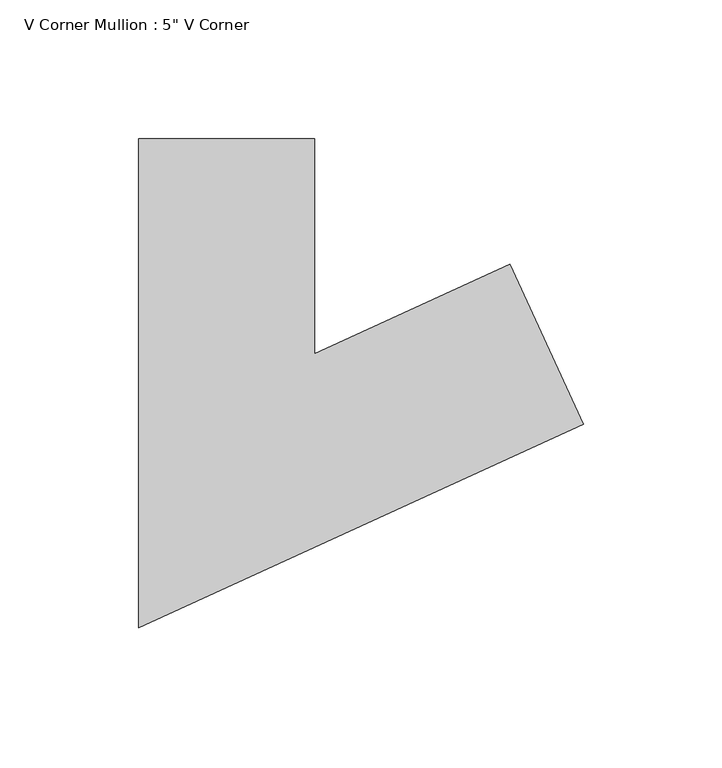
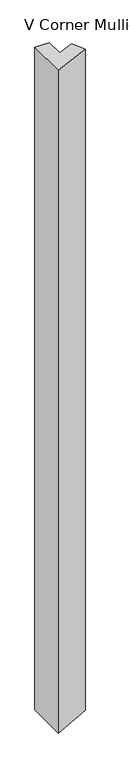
"""IFC4 building model written with IfcOpenShell, lengths in millimetres: member geometry."""

import ifcopenshell
import ifcopenshell.guid

model = None  # the IFC model being written
_history = None  # IfcOwnerHistory: only IFC2X3 demands one
_inside = {}  # id of a spatial element -> (the spatial element, [elements in it])
_under = {}  # id of a project, library or spatial element -> (it, [spatial elements below it])
_declared = {}  # id of a project -> (the project, [libraries it declares])
_typed = {}  # id of a type object -> (the type object, [elements of that type])
_made_of = {}  # id of a material, layer set ... -> (it, [elements and type objects made of it])


def new_model(schema):
    """Start an empty IFC model of exactly this schema.

    Asked for "IFC4X3", IfcOpenShell would pick the latest addendum, in which some entities
    have other attributes; the version numbers below select the first issue.
    IFC2X3 requires an IfcOwnerHistory on every rooted entity: one is made here for all.
    """
    global model, _history
    if schema == "IFC4X3":
        model = ifcopenshell.file(schema_version=(4, 3, 0, 0))
    else:
        model = ifcopenshell.file(schema=schema)
    _inside.clear()
    _under.clear()
    _declared.clear()
    _typed.clear()
    _made_of.clear()
    _history = None
    if model.schema == "IFC2X3":
        org = make("IfcOrganization", Name="unknown")
        user = make(
            "IfcPersonAndOrganization",
            ThePerson=make("IfcPerson", FamilyName="unknown"),
            TheOrganization=org,
        )
        app = make(
            "IfcApplication",
            ApplicationDeveloper=org,
            Version="unknown",
            ApplicationFullName="unknown",
            ApplicationIdentifier="unknown",
        )
        _history = make(
            "IfcOwnerHistory",
            OwningUser=user,
            OwningApplication=app,
            ChangeAction="ADDED",
            CreationDate=0,
        )
    return model


def make(cls, **values):
    """One entity of the class cls with the attributes given. An attribute that is None is left unset."""
    return model.create_entity(
        cls, **{name: value for name, value in values.items() if value is not None}
    )


def rooted(cls, **values):
    """An entity with a GlobalId (a new one), such as an element, a storey or a relation."""
    return make(cls, GlobalId=ifcopenshell.guid.new(), OwnerHistory=_history, **values)


def si_unit(unit_type, name, prefix=None):
    """IfcSIUnit, for example si_unit("LENGTHUNIT", "METRE", prefix="MILLI")."""
    return make("IfcSIUnit", UnitType=unit_type, Prefix=prefix, Name=name)


def assignment(units):
    """IfcUnitAssignment: the units of a project."""
    return None if units is None else make("IfcUnitAssignment", Units=units)


def point(xyz):
    """IfcCartesianPoint."""
    return None if xyz is None else make("IfcCartesianPoint", Coordinates=xyz)


def direction(xyz):
    """IfcDirection."""
    return None if xyz is None else make("IfcDirection", DirectionRatios=xyz)


def frame(location, z_axis=None, x_axis=None):
    """IfcAxis2Placement3D, a coordinate frame: its origin and axes. An axis left out is left unset."""
    return make(
        "IfcAxis2Placement3D",
        Location=point(location),
        Axis=direction(z_axis),
        RefDirection=direction(x_axis),
    )


def origin():
    """The frame at (0, 0, 0) with its axes left unset."""
    return frame((0.0, 0.0, 0.0))


def place(relative_to, where):
    """IfcLocalPlacement: puts the frame where relative to a parent placement (None: the world)."""
    return make(
        "IfcLocalPlacement", PlacementRelTo=relative_to, RelativePlacement=where
    )


def context(
    kind, dimensions, precision=None, world=None, true_north=None, identifier=None
):
    """IfcGeometricRepresentationContext, for example the 3D "Model" context."""
    return make(
        "IfcGeometricRepresentationContext",
        ContextIdentifier=identifier,
        ContextType=kind,
        CoordinateSpaceDimension=dimensions,
        Precision=precision,
        WorldCoordinateSystem=world,
        TrueNorth=true_north,
    )


def project(units=None, contexts=None):
    """IfcProject with its units and contexts."""
    return rooted(
        "IfcProject",
        Name="project",
        RepresentationContexts=contexts,
        UnitsInContext=assignment(units),
    )


def spatial(cls, under=None, at=None, **own):
    """A site, building, storey or space (cls), placed at a placement, below another one or the project."""
    s = rooted(cls, ObjectPlacement=at, **own)
    if under is not None:
        _under.setdefault(under.id(), (under, []))[1].append(s)
    return s


def faces_of(points, faces, orient=None, outer=None):
    """IfcFace entities. A face is a list of loops; a loop is a list of indices into points, from 0.

    orient and outer hold one flag for each loop. By default every Orientation is true, the
    first loop of a face is its IfcFaceOuterBound and the others are IfcFaceBound.
    """
    made = []
    for i, loops in enumerate(faces):
        bounds = []
        for j, loop in enumerate(loops):
            is_outer = j == 0 if outer is None else outer[i][j]
            bounds.append(
                make(
                    "IfcFaceOuterBound" if is_outer else "IfcFaceBound",
                    Bound=make("IfcPolyLoop", Polygon=[points[k] for k in loop]),
                    Orientation=True if orient is None else orient[i][j],
                )
            )
        made.append(make("IfcFace", Bounds=bounds))
    return made


def faceted_brep(points, faces, orient=None, outer=None, voids=None):
    """IfcFacetedBrep: a solid bounded by flat faces; with voids (closed shells), ...WithVoids."""
    shared = [point(p) for p in points]
    hull = make("IfcClosedShell", CfsFaces=faces_of(shared, faces, orient, outer))
    if voids is None:
        return make("IfcFacetedBrep", Outer=hull)
    return make(
        "IfcFacetedBrepWithVoids",
        Outer=hull,
        Voids=[
            make(cls, CfsFaces=faces_of(shared, fs, o, b)) for cls, fs, o, b in voids
        ],
    )


def shape(context_of_items, identifier, shape_type, items):
    """IfcShapeRepresentation: the items that make up one representation, for example the "Body"."""
    return make(
        "IfcShapeRepresentation",
        ContextOfItems=context_of_items,
        RepresentationIdentifier=identifier,
        RepresentationType=shape_type,
        Items=items,
    )


def source(mapping_origin, context_of_items, identifier, shape_type, items):
    """IfcRepresentationMap: a shape defined once, which mapped items show again and again."""
    return make(
        "IfcRepresentationMap",
        MappingOrigin=mapping_origin,
        MappedRepresentation=shape(context_of_items, identifier, shape_type, items),
    )


def transform(
    local_origin,
    x_axis=None,
    y_axis=None,
    z_axis=None,
    scale=None,
    scale2=None,
    scale3=None,
    uniform=True,
):
    """IfcCartesianTransformationOperator3D, or its non-uniform kind. x_axis, y_axis, z_axis: its Axis1, 2, 3."""
    if uniform:
        return make(
            "IfcCartesianTransformationOperator3D",
            Axis1=direction(x_axis),
            Axis2=direction(y_axis),
            LocalOrigin=point(local_origin),
            Scale=scale,
            Axis3=direction(z_axis),
        )
    return make(
        "IfcCartesianTransformationOperator3DnonUniform",
        Axis1=direction(x_axis),
        Axis2=direction(y_axis),
        LocalOrigin=point(local_origin),
        Scale=scale,
        Axis3=direction(z_axis),
        Scale2=scale2,
        Scale3=scale3,
    )


def mapped(mapping_source, mapping_target):
    """IfcMappedItem: shows the shape of a source again, moved by a transform."""
    return make(
        "IfcMappedItem", MappingSource=mapping_source, MappingTarget=mapping_target
    )


def made_of(thing, what):
    """Note that an element or type object is made of a material, layer set ...; save() writes the relation."""
    if what is not None:
        _made_of.setdefault(what.id(), (what, []))[1].append(thing)
    return thing


def element(
    cls,
    number,
    at=None,
    inside=None,
    cuts=None,
    type_object=None,
    material=None,
    context=None,
    identifier="Body",
    shape_type=None,
    held_by="IfcProductDefinitionShape",
    body=None,
    shapes=None,
    **own,
):
    """One element of the class cls, such as IfcWall. Its Tag is "e" and its number.

    at: its placement. inside: the storey or other place that contains it. cuts: it is an
    opening in that element (IfcRelVoidsElement). A single representation is given by context,
    identifier, shape_type and body (its items); several are given by shapes. held_by: the class
    of the entity that holds the representations. save() writes the other relations.
    """
    e = rooted(cls, Tag="e%d" % number, ObjectPlacement=at, **own)
    if body is not None:
        shapes = [shape(context, identifier, shape_type, body)]
    if shapes is not None:
        e.Representation = make(held_by, Representations=shapes)
    if inside is not None:
        _inside.setdefault(inside.id(), (inside, []))[1].append(e)
    if cuts is not None:
        rooted(
            "IfcRelVoidsElement", RelatingBuildingElement=cuts, RelatedOpeningElement=e
        )
    if type_object is not None:
        _typed.setdefault(type_object.id(), (type_object, []))[1].append(e)
    return made_of(e, material)


def aggregate(whole, parts):
    """IfcRelAggregates: a whole, such as a stair, and the parts it consists of."""
    return rooted("IfcRelAggregates", RelatingObject=whole, RelatedObjects=parts)


def save(model, path):
    """Write the relations noted so far, then the file.

    IfcRelAggregates (storeys below a building ...), IfcRelContainedInSpatialStructure (elements
    in a storey), IfcRelDefinesByType, IfcRelAssociatesMaterial and IfcRelDeclares: one each for
    every whole, place, type object, material and project.
    """
    for whole, parts in _under.values():
        aggregate(whole, parts)
    for where, things in _inside.values():
        rooted(
            "IfcRelContainedInSpatialStructure",
            RelatedElements=things,
            RelatingStructure=where,
        )
    for kind, things in _typed.values():
        rooted("IfcRelDefinesByType", RelatedObjects=things, RelatingType=kind)
    for what, things in _made_of.values():
        rooted("IfcRelAssociatesMaterial", RelatedObjects=things, RelatingMaterial=what)
    for by, libraries in _declared.values():
        rooted("IfcRelDeclares", RelatingContext=by, RelatedDefinitions=libraries)
    model.write(path)


def member_842ebd8a(model_context):
    return source(origin(), model_context, "Body", "Brep", [
        faceted_brep([(61.49523, 18.2208415, -1.4578947), (87.9205542, -39.5195451, -2.0843716), (87.9205542, -39.5195451, -3055.7302445), (61.49523, 18.2208415, -3056.684233), (-9.0228811, -14.0523047, 0.2139094), (-9.0228811, -14.0523047, -3059.2300281), (-9.0228811, 63.5, 0.2139094), (-9.0228811, 63.5, -3059.2300281), (-72.5228811, 63.5, 1.7193321), (-72.5228811, 63.5, -3061.5224603), (-72.5228811, -112.9476953, 1.7193321), (-72.5228811, -112.9476953, -3061.5224603)], [[[0, 1, 2, 3]], [[4, 0, 3, 5]], [[6, 4, 5, 7]], [[8, 6, 7, 9]], [[10, 8, 9, 11]], [[1, 10, 11, 2]], [[1, 0, 4, 6, 8, 10]], [[2, 11, 9, 7, 5, 3]]]),
    ])


if __name__ == "__main__":
    model = new_model("IFC4")
    model_context = context("Model", 3, world=origin())
    ifc_project = project(units=[si_unit("LENGTHUNIT", "METRE", prefix="MILLI")], contexts=[model_context])
    site = spatial("IfcSite", under=ifc_project)
    building = spatial("IfcBuilding", under=site)
    placement = place(None, origin())
    member_shape = member_842ebd8a(model_context)
    element("IfcMember", 1, ObjectType="V Corner Mullion : 5\" V Corner", at=placement, inside=building, context=model_context, shape_type="MappedRepresentation", body=[
        mapped(member_shape, transform((0.0, 0.0, 0.0), x_axis=(1.0, 0.0, 0.0), y_axis=(0.0, 1.0, 0.0), z_axis=(0.0, 0.0, 1.0))),
    ])
    save(model, "model.ifc")
